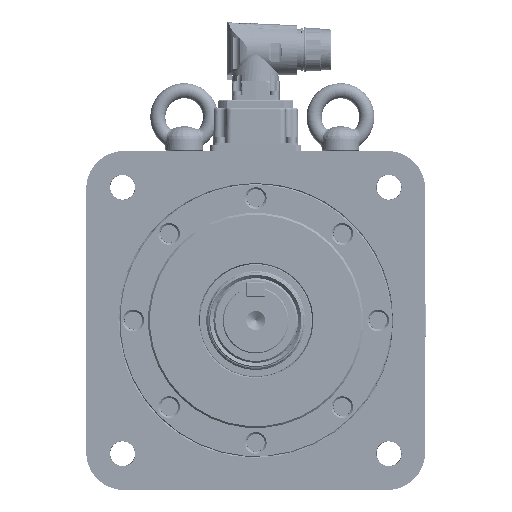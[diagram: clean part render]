
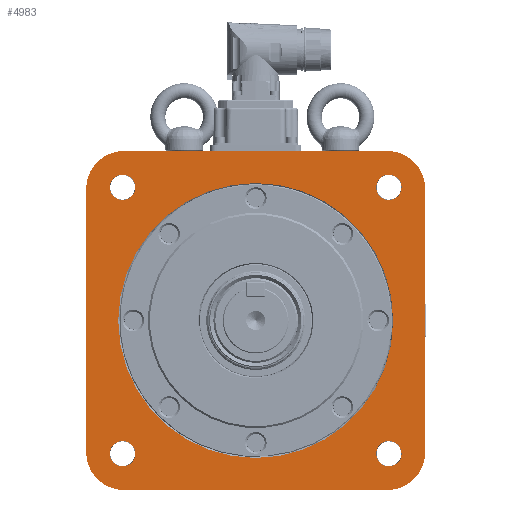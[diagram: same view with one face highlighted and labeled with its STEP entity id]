
A CAD part, front view. The second image highlights one B-rep face of the part: STEP entity #4983.
In plain terms, the highlighted planar face has unit normal (0, -1, 0).
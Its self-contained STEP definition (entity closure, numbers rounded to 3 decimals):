
#4983 = ADVANCED_FACE( '', ( #12352, #12353, #12354, #12355, #12356, #12357 ), #12358, .F. );
#12352 = FACE_BOUND( '', #27175, .T. );
#12353 = FACE_BOUND( '', #27176, .T. );
#12354 = FACE_BOUND( '', #27177, .T. );
#12355 = FACE_BOUND( '', #27178, .T. );
#12356 = FACE_BOUND( '', #27179, .T. );
#12357 = FACE_OUTER_BOUND( '', #27180, .T. );
#12358 = PLANE( '', #27181 );
#27175 = EDGE_LOOP( '', ( #54451 ) );
#27176 = EDGE_LOOP( '', ( #54452 ) );
#27177 = EDGE_LOOP( '', ( #54453 ) );
#27178 = EDGE_LOOP( '', ( #54454 ) );
#27179 = EDGE_LOOP( '', ( #54455 ) );
#27180 = EDGE_LOOP( '', ( #54456, #54457, #54458, #54459, #54460, #54461, #54462, #54463 ) );
#27181 = AXIS2_PLACEMENT_3D( '', #54464, #54465, #54466 );
#54451 = ORIENTED_EDGE( '', *, *, #75742, .T. );
#54452 = ORIENTED_EDGE( '', *, *, #76342, .F. );
#54453 = ORIENTED_EDGE( '', *, *, #76343, .F. );
#54454 = ORIENTED_EDGE( '', *, *, #76344, .F. );
#54455 = ORIENTED_EDGE( '', *, *, #73057, .F. );
#54456 = ORIENTED_EDGE( '', *, *, #73691, .T. );
#54457 = ORIENTED_EDGE( '', *, *, #76345, .T. );
#54458 = ORIENTED_EDGE( '', *, *, #72734, .T. );
#54459 = ORIENTED_EDGE( '', *, *, #76346, .T. );
#54460 = ORIENTED_EDGE( '', *, *, #76347, .T. );
#54461 = ORIENTED_EDGE( '', *, *, #76108, .T. );
#54462 = ORIENTED_EDGE( '', *, *, #76348, .T. );
#54463 = ORIENTED_EDGE( '', *, *, #76349, .T. );
#54464 = CARTESIAN_POINT( '', ( 0., -137., 72.5 ) );
#54465 = DIRECTION( '', ( 0., 1., 0. ) );
#54466 = DIRECTION( '', ( 0., 0., 1. ) );
#72734 = EDGE_CURVE( '', #83642, #83640, #83643, .T. );
#73057 = EDGE_CURVE( '', #84210, #84210, #84211, .F. );
#73691 = EDGE_CURVE( '', #85310, #85308, #85311, .T. );
#75742 = EDGE_CURVE( '', #88646, #88646, #88647, .T. );
#76108 = EDGE_CURVE( '', #89199, #89200, #89201, .F. );
#76342 = EDGE_CURVE( '', #89562, #89562, #89563, .F. );
#76343 = EDGE_CURVE( '', #89564, #89564, #89565, .F. );
#76344 = EDGE_CURVE( '', #89566, #89566, #89567, .F. );
#76345 = EDGE_CURVE( '', #85308, #83642, #89568, .F. );
#76346 = EDGE_CURVE( '', #83640, #89569, #89570, .F. );
#76347 = EDGE_CURVE( '', #89569, #89199, #89571, .T. );
#76348 = EDGE_CURVE( '', #89200, #89572, #89573, .T. );
#76349 = EDGE_CURVE( '', #89572, #85310, #89574, .F. );
#83640 = VERTEX_POINT( '', #101214 );
#83642 = VERTEX_POINT( '', #101217 );
#83643 = LINE( '', #101218, #101219 );
#84210 = VERTEX_POINT( '', #102817 );
#84211 = CIRCLE( '', #102818, 6.745 );
#85308 = VERTEX_POINT( '', #105311 );
#85310 = VERTEX_POINT( '', #105314 );
#85311 = LINE( '', #105315, #105316 );
#88646 = VERTEX_POINT( '', #114794 );
#88647 = CIRCLE( '', #114795, 73. );
#89199 = VERTEX_POINT( '', #116423 );
#89200 = VERTEX_POINT( '', #116424 );
#89201 = CIRCLE( '', #116425, 20. );
#89562 = VERTEX_POINT( '', #117027 );
#89563 = CIRCLE( '', #117028, 6.745 );
#89564 = VERTEX_POINT( '', #117029 );
#89565 = CIRCLE( '', #117030, 6.745 );
#89566 = VERTEX_POINT( '', #117031 );
#89567 = CIRCLE( '', #117032, 6.745 );
#89568 = CIRCLE( '', #117033, 20. );
#89569 = VERTEX_POINT( '', #117034 );
#89570 = CIRCLE( '', #117035, 20. );
#89571 = LINE( '', #117036, #117037 );
#89572 = VERTEX_POINT( '', #117038 );
#89573 = LINE( '', #117039, #117040 );
#89574 = CIRCLE( '', #117041, 20. );
#101214 = CARTESIAN_POINT( '', ( 70., -137., -90. ) );
#101217 = CARTESIAN_POINT( '', ( -70., -137., -90. ) );
#101218 = CARTESIAN_POINT( '', ( -90., -137., -90. ) );
#101219 = VECTOR( '', #133619, 1000. );
#102817 = CARTESIAN_POINT( '', ( -70.711, -137., -63.966 ) );
#102818 = AXIS2_PLACEMENT_3D( '', #134026, #134027, #134028 );
#105311 = CARTESIAN_POINT( '', ( -90., -137., -70. ) );
#105314 = CARTESIAN_POINT( '', ( -90., -137., 70. ) );
#105315 = CARTESIAN_POINT( '', ( -90., -137., 90. ) );
#105316 = VECTOR( '', #134876, 1000. );
#114794 = CARTESIAN_POINT( '', ( 0., -137., 73. ) );
#114795 = AXIS2_PLACEMENT_3D( '', #137261, #137262, #137263 );
#116423 = CARTESIAN_POINT( '', ( 90., -137., 70. ) );
#116424 = CARTESIAN_POINT( '', ( 70., -137., 90. ) );
#116425 = AXIS2_PLACEMENT_3D( '', #137661, #137662, #137663 );
#117027 = CARTESIAN_POINT( '', ( -70.711, -137., 77.455 ) );
#117028 = AXIS2_PLACEMENT_3D( '', #137948, #137949, #137950 );
#117029 = CARTESIAN_POINT( '', ( 70.711, -137., 77.455 ) );
#117030 = AXIS2_PLACEMENT_3D( '', #137951, #137952, #137953 );
#117031 = CARTESIAN_POINT( '', ( 70.711, -137., -63.966 ) );
#117032 = AXIS2_PLACEMENT_3D( '', #137954, #137955, #137956 );
#117033 = AXIS2_PLACEMENT_3D( '', #137957, #137958, #137959 );
#117034 = CARTESIAN_POINT( '', ( 90., -137., -70. ) );
#117035 = AXIS2_PLACEMENT_3D( '', #137960, #137961, #137962 );
#117036 = CARTESIAN_POINT( '', ( 90., -137., -90. ) );
#117037 = VECTOR( '', #137963, 1000. );
#117038 = CARTESIAN_POINT( '', ( -70., -137., 90. ) );
#117039 = CARTESIAN_POINT( '', ( 90., -137., 90. ) );
#117040 = VECTOR( '', #137964, 1000. );
#117041 = AXIS2_PLACEMENT_3D( '', #137965, #137966, #137967 );
#133619 = DIRECTION( '', ( 1., 0., 0. ) );
#134026 = CARTESIAN_POINT( '', ( -70.711, -137., -70.711 ) );
#134027 = DIRECTION( '', ( 0., 1., 0. ) );
#134028 = DIRECTION( '', ( 0., 0., 1. ) );
#134876 = DIRECTION( '', ( 0., 0., -1. ) );
#137261 = CARTESIAN_POINT( '', ( 0., -137., 0. ) );
#137262 = DIRECTION( '', ( 0., 1., 0. ) );
#137263 = DIRECTION( '', ( 0., 0., 1. ) );
#137661 = CARTESIAN_POINT( '', ( 70., -137., 70. ) );
#137662 = DIRECTION( '', ( 0., 1., 0. ) );
#137663 = DIRECTION( '', ( 0., 0., 1. ) );
#137948 = CARTESIAN_POINT( '', ( -70.711, -137., 70.711 ) );
#137949 = DIRECTION( '', ( 0., 1., 0. ) );
#137950 = DIRECTION( '', ( 0., 0., 1. ) );
#137951 = CARTESIAN_POINT( '', ( 70.711, -137., 70.711 ) );
#137952 = DIRECTION( '', ( 0., 1., 0. ) );
#137953 = DIRECTION( '', ( 0., 0., 1. ) );
#137954 = CARTESIAN_POINT( '', ( 70.711, -137., -70.711 ) );
#137955 = DIRECTION( '', ( 0., 1., 0. ) );
#137956 = DIRECTION( '', ( 0., 0., 1. ) );
#137957 = CARTESIAN_POINT( '', ( -70., -137., -70. ) );
#137958 = DIRECTION( '', ( 0., 1., 0. ) );
#137959 = DIRECTION( '', ( 0., 0., 1. ) );
#137960 = CARTESIAN_POINT( '', ( 70., -137., -70. ) );
#137961 = DIRECTION( '', ( 0., 1., 0. ) );
#137962 = DIRECTION( '', ( 0., 0., 1. ) );
#137963 = DIRECTION( '', ( 0., 0., 1. ) );
#137964 = DIRECTION( '', ( -1., 0., 0. ) );
#137965 = CARTESIAN_POINT( '', ( -70., -137., 70. ) );
#137966 = DIRECTION( '', ( 0., 1., 0. ) );
#137967 = DIRECTION( '', ( 0., 0., 1. ) );
